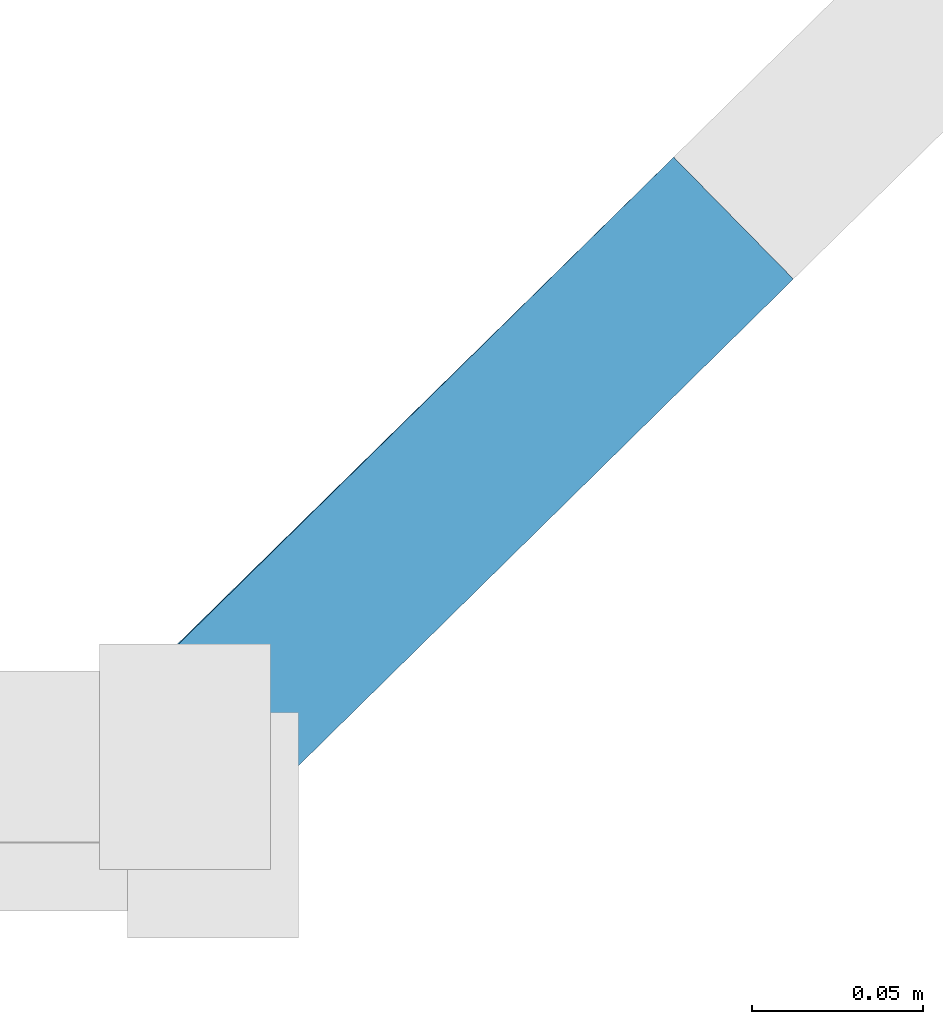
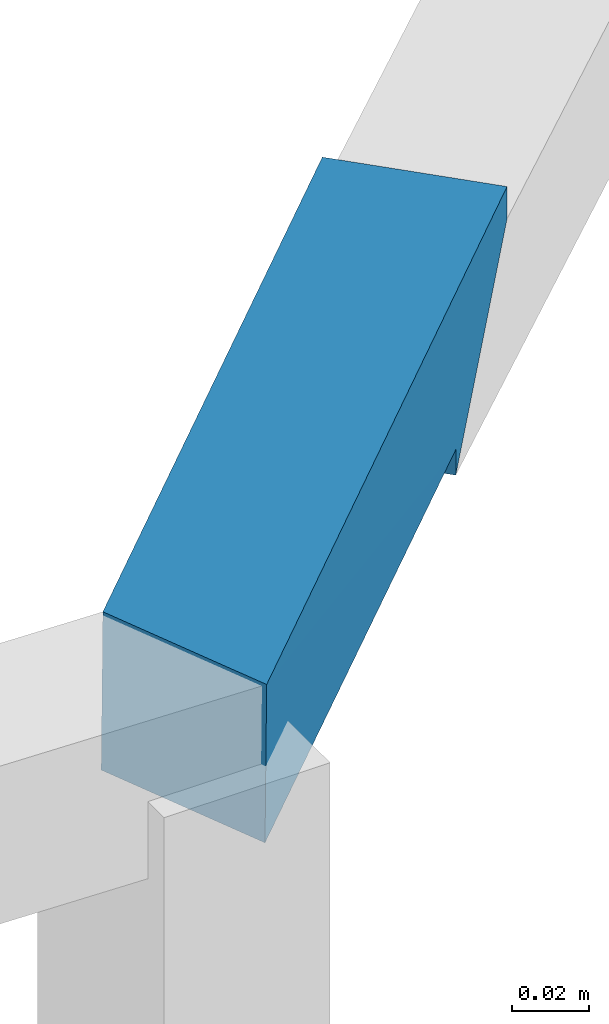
# One storey, part 78 of 91: 1 building element part, 1 element without a shape of its own.
"""IFC2X3 building model written with IfcOpenShell, lengths in metres."""

from ifc_helpers import new_model, entity, si_unit, converted_unit, derived_unit, money_unit, direction, frame, origin_with_axes, place, context, subcontext, project, spatial, faceted_brep, material, type_object, element, aggregate, save


model = new_model("IFC2X3")

# Units and contexts
model_context = context("Model", 3, precision=1e-05, world=origin_with_axes(), true_north=direction((0.0, 1.0)))
body_context = subcontext(model_context, "Body", "Model", "MODEL_VIEW")
ifc_project = project(units=[si_unit("LENGTHUNIT", "METRE"), si_unit("AREAUNIT", "SQUARE_METRE"), si_unit("VOLUMEUNIT", "CUBIC_METRE"), converted_unit("PLANEANGLEUNIT", "DEGREE", entity("IfcPlaneAngleMeasure", 0.0174532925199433), si_unit("PLANEANGLEUNIT", "RADIAN"), dimensions=[0, 0, 0, 0, 0, 0, 0]), money_unit("EUR"), converted_unit("TIMEUNIT", "Year", entity("IfcTimeMeasure", 31557600.0), si_unit("TIMEUNIT", "SECOND"), dimensions=[0, 0, 1, 0, 0, 0, 0]), si_unit("MASSUNIT", "GRAM", prefix="KILO"), si_unit("THERMODYNAMICTEMPERATUREUNIT", "DEGREE_CELSIUS"), si_unit("LUMINOUSINTENSITYUNIT", "LUMEN"), si_unit("ENERGYUNIT", "JOULE", prefix="MEGA"), derived_unit("THERMALCONDUCTANCEUNIT", [(si_unit("POWERUNIT", "WATT"), 1), (si_unit("LENGTHUNIT", "METRE"), -1), (si_unit("THERMODYNAMICTEMPERATUREUNIT", "KELVIN"), -1)]), derived_unit("SPECIFICHEATCAPACITYUNIT", [(si_unit("ENERGYUNIT", "JOULE"), 1), (si_unit("MASSUNIT", "GRAM", prefix="KILO"), -1), (si_unit("THERMODYNAMICTEMPERATUREUNIT", "KELVIN"), -1)]), derived_unit("MASSDENSITYUNIT", [(si_unit("MASSUNIT", "GRAM", prefix="KILO"), 1), (si_unit("VOLUMEUNIT", "CUBIC_METRE"), -1)])], contexts=[model_context])

# Site, building, storey
site_placement = place(None, origin_with_axes())
site = spatial("IfcSite", under=ifc_project, at=site_placement, Name="Site", CompositionType="ELEMENT")
building_placement = place(site_placement, origin_with_axes())
building = spatial("IfcBuilding", under=site, at=building_placement, Name="Bâtiment", CompositionType="ELEMENT")
storey_placement = place(building_placement, origin_with_axes())
storey = spatial("IfcBuildingStorey", under=building, at=storey_placement, Name="RDC", CompositionType="ELEMENT", Elevation=0.0)

# Proxy, building element part
building_element_proxy_type = type_object("IfcBuildingElementProxyType", Name="Type de garde-corps", PredefinedType="NOTDEFINED")
proxy_placement = place(storey_placement, frame((79.63337255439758, 3.614023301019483, -2.37161404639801), z_axis=(0.0, 0.0, 1.0), x_axis=(1.0, 0.0, 0.0)))
proxy = element("IfcBuildingElementProxy", 1, at=proxy_placement, inside=storey, type_object=building_element_proxy_type, Name="RAMPE-004")
ifc_material = material(Name="Acier Galva")
building_element_part_placement = place(proxy_placement, origin_with_axes())
building_element_part = element("IfcBuildingElementPart", 2, at=building_element_part_placement, material=ifc_material, Name="Acier Galva", context=body_context, shape_type="Brep", body=[
    faceted_brep([(-25.49818898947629, -41.4877921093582, 5.420038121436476), (-25.49884932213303, -41.48806224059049, 5.370038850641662), (-25.36638423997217, -41.35812772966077, 5.37003848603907), (-25.5186419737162, -41.4377950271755, 5.420038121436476), (-25.51930230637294, -41.4380651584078, 5.370038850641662), (-25.40142294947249, -41.32245857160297, 5.37003848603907), (-25.36638423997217, -41.35812772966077, 5.361894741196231), (-25.33071508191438, -41.32308902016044, 5.4097837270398), (-25.33071508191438, -41.32308902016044, 5.420038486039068), (-25.3657537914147, -41.28741986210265, 5.420038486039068), (-25.40142294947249, -41.32245857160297, 5.361894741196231), (-25.3657537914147, -41.28741986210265, 5.4097837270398)], [[[0, 1, 2]], [[0, 3, 4, 1]], [[1, 5, 2]], [[0, 2, 6, 7, 8]], [[3, 0, 8]], [[4, 3, 9]], [[1, 4, 5]], [[2, 5, 10, 6]], [[7, 6, 10, 11]], [[9, 8, 7, 11]], [[3, 8, 9]], [[4, 9, 11, 10, 5]]]),
])
aggregate(proxy, [building_element_part])

save(model, "model.ifc")
